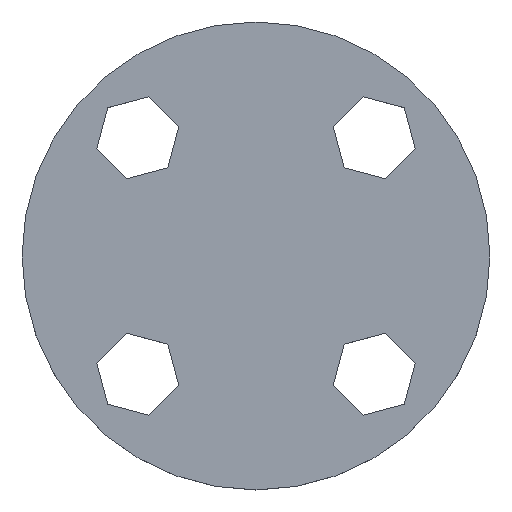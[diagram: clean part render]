
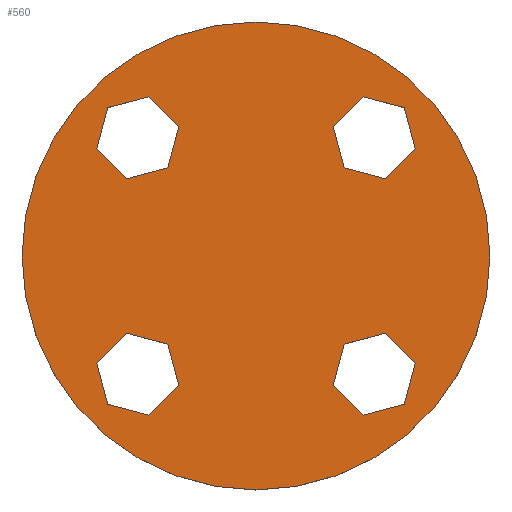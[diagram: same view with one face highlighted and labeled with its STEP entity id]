
A CAD part, top view. The second image highlights one B-rep face of the part: STEP entity #560.
In plain terms, the highlighted planar face has unit normal (0, 0, 1).
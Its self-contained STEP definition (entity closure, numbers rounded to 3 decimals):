
#20=FACE_BOUND('',#227,.T.);
#21=FACE_BOUND('',#228,.T.);
#22=FACE_BOUND('',#229,.T.);
#23=FACE_BOUND('',#230,.T.);
#49=LINE('',#800,#122);
#52=LINE('',#805,#125);
#54=LINE('',#809,#127);
#56=LINE('',#814,#129);
#59=LINE('',#819,#132);
#61=LINE('',#823,#134);
#63=LINE('',#828,#136);
#66=LINE('',#833,#139);
#68=LINE('',#837,#141);
#70=LINE('',#842,#143);
#73=LINE('',#847,#146);
#75=LINE('',#851,#148);
#77=LINE('',#855,#150);
#78=LINE('',#858,#151);
#80=LINE('',#861,#153);
#82=LINE('',#865,#155);
#83=LINE('',#868,#156);
#85=LINE('',#871,#158);
#87=LINE('',#875,#160);
#88=LINE('',#878,#161);
#90=LINE('',#881,#163);
#92=LINE('',#885,#165);
#93=LINE('',#888,#166);
#95=LINE('',#891,#168);
#122=VECTOR('',#644,10.);
#125=VECTOR('',#649,10.);
#127=VECTOR('',#653,10.);
#129=VECTOR('',#657,10.);
#132=VECTOR('',#662,10.);
#134=VECTOR('',#666,10.);
#136=VECTOR('',#670,10.);
#139=VECTOR('',#675,10.);
#141=VECTOR('',#679,10.);
#143=VECTOR('',#683,10.);
#146=VECTOR('',#688,10.);
#148=VECTOR('',#692,10.);
#150=VECTOR('',#696,10.);
#151=VECTOR('',#699,10.);
#153=VECTOR('',#703,10.);
#155=VECTOR('',#707,10.);
#156=VECTOR('',#710,10.);
#158=VECTOR('',#714,10.);
#160=VECTOR('',#718,10.);
#161=VECTOR('',#721,10.);
#163=VECTOR('',#725,10.);
#165=VECTOR('',#729,10.);
#166=VECTOR('',#732,10.);
#168=VECTOR('',#736,10.);
#195=FACE_OUTER_BOUND('',#226,.T.);
#226=EDGE_LOOP('',(#480));
#227=EDGE_LOOP('',(#481,#482,#483,#484,#485,#486));
#228=EDGE_LOOP('',(#487,#488,#489,#490,#491,#492));
#229=EDGE_LOOP('',(#493,#494,#495,#496,#497,#498));
#230=EDGE_LOOP('',(#499,#500,#501,#502,#503,#504));
#233=CIRCLE('',#609,17.5);
#259=VERTEX_POINT('',#797);
#260=VERTEX_POINT('',#799);
#261=VERTEX_POINT('',#803);
#262=VERTEX_POINT('',#807);
#263=VERTEX_POINT('',#811);
#264=VERTEX_POINT('',#813);
#265=VERTEX_POINT('',#817);
#266=VERTEX_POINT('',#821);
#267=VERTEX_POINT('',#825);
#268=VERTEX_POINT('',#827);
#269=VERTEX_POINT('',#831);
#270=VERTEX_POINT('',#835);
#271=VERTEX_POINT('',#839);
#272=VERTEX_POINT('',#841);
#273=VERTEX_POINT('',#845);
#274=VERTEX_POINT('',#849);
#275=VERTEX_POINT('',#853);
#276=VERTEX_POINT('',#857);
#277=VERTEX_POINT('',#863);
#278=VERTEX_POINT('',#867);
#279=VERTEX_POINT('',#873);
#280=VERTEX_POINT('',#877);
#281=VERTEX_POINT('',#883);
#282=VERTEX_POINT('',#887);
#283=VERTEX_POINT('',#893);
#310=EDGE_CURVE('',#260,#259,#49,.T.);
#313=EDGE_CURVE('',#259,#261,#52,.T.);
#315=EDGE_CURVE('',#261,#262,#54,.T.);
#317=EDGE_CURVE('',#264,#263,#56,.T.);
#320=EDGE_CURVE('',#263,#265,#59,.T.);
#322=EDGE_CURVE('',#265,#266,#61,.T.);
#324=EDGE_CURVE('',#268,#267,#63,.T.);
#327=EDGE_CURVE('',#267,#269,#66,.T.);
#329=EDGE_CURVE('',#269,#270,#68,.T.);
#331=EDGE_CURVE('',#272,#271,#70,.T.);
#334=EDGE_CURVE('',#271,#273,#73,.T.);
#336=EDGE_CURVE('',#273,#274,#75,.T.);
#338=EDGE_CURVE('',#262,#275,#77,.T.);
#339=EDGE_CURVE('',#276,#260,#78,.T.);
#341=EDGE_CURVE('',#275,#276,#80,.T.);
#343=EDGE_CURVE('',#266,#277,#82,.T.);
#344=EDGE_CURVE('',#278,#264,#83,.T.);
#346=EDGE_CURVE('',#277,#278,#85,.T.);
#348=EDGE_CURVE('',#270,#279,#87,.T.);
#349=EDGE_CURVE('',#280,#268,#88,.T.);
#351=EDGE_CURVE('',#279,#280,#90,.T.);
#353=EDGE_CURVE('',#274,#281,#92,.T.);
#354=EDGE_CURVE('',#282,#272,#93,.T.);
#356=EDGE_CURVE('',#281,#282,#95,.T.);
#357=EDGE_CURVE('',#283,#283,#233,.T.);
#480=ORIENTED_EDGE('',*,*,#357,.T.);
#481=ORIENTED_EDGE('',*,*,#356,.T.);
#482=ORIENTED_EDGE('',*,*,#354,.T.);
#483=ORIENTED_EDGE('',*,*,#331,.T.);
#484=ORIENTED_EDGE('',*,*,#334,.T.);
#485=ORIENTED_EDGE('',*,*,#336,.T.);
#486=ORIENTED_EDGE('',*,*,#353,.T.);
#487=ORIENTED_EDGE('',*,*,#351,.T.);
#488=ORIENTED_EDGE('',*,*,#349,.T.);
#489=ORIENTED_EDGE('',*,*,#324,.T.);
#490=ORIENTED_EDGE('',*,*,#327,.T.);
#491=ORIENTED_EDGE('',*,*,#329,.T.);
#492=ORIENTED_EDGE('',*,*,#348,.T.);
#493=ORIENTED_EDGE('',*,*,#346,.T.);
#494=ORIENTED_EDGE('',*,*,#344,.T.);
#495=ORIENTED_EDGE('',*,*,#317,.T.);
#496=ORIENTED_EDGE('',*,*,#320,.T.);
#497=ORIENTED_EDGE('',*,*,#322,.T.);
#498=ORIENTED_EDGE('',*,*,#343,.T.);
#499=ORIENTED_EDGE('',*,*,#341,.T.);
#500=ORIENTED_EDGE('',*,*,#339,.T.);
#501=ORIENTED_EDGE('',*,*,#310,.T.);
#502=ORIENTED_EDGE('',*,*,#313,.T.);
#503=ORIENTED_EDGE('',*,*,#315,.T.);
#504=ORIENTED_EDGE('',*,*,#338,.T.);
#534=PLANE('',#608);
#560=ADVANCED_FACE('',(#195,#20,#21,#22,#23),#534,.T.);
#608=AXIS2_PLACEMENT_3D('',#892,#737,#738);
#609=AXIS2_PLACEMENT_3D('',#894,#739,#740);
#644=DIRECTION('',(0.259,0.966,0.));
#649=DIRECTION('',(0.966,0.259,0.));
#653=DIRECTION('',(0.707,-0.707,0.));
#657=DIRECTION('',(-0.707,-0.707,0.));
#662=DIRECTION('',(-0.966,0.259,0.));
#666=DIRECTION('',(-0.259,0.966,0.));
#670=DIRECTION('',(0.707,-0.707,0.));
#675=DIRECTION('',(-0.259,-0.966,0.));
#679=DIRECTION('',(-0.966,-0.259,0.));
#683=DIRECTION('',(0.707,0.707,0.));
#688=DIRECTION('',(0.966,-0.259,0.));
#692=DIRECTION('',(0.259,-0.966,0.));
#696=DIRECTION('',(-0.259,-0.966,0.));
#699=DIRECTION('',(-0.707,0.707,0.));
#703=DIRECTION('',(-0.966,-0.259,0.));
#707=DIRECTION('',(0.707,0.707,0.));
#710=DIRECTION('',(0.259,-0.966,0.));
#714=DIRECTION('',(0.966,-0.259,0.));
#718=DIRECTION('',(-0.707,0.707,0.));
#721=DIRECTION('',(0.966,0.259,0.));
#725=DIRECTION('',(0.259,0.966,0.));
#729=DIRECTION('',(-0.707,-0.707,0.));
#732=DIRECTION('',(-0.259,0.966,0.));
#736=DIRECTION('',(-0.966,0.259,0.));
#737=DIRECTION('center_axis',(0.,0.,1.));
#738=DIRECTION('ref_axis',(1.,0.,0.));
#739=DIRECTION('center_axis',(0.,0.,1.));
#740=DIRECTION('ref_axis',(1.,0.,0.));
#797=CARTESIAN_POINT('',(-11.084,11.084,5.));
#799=CARTESIAN_POINT('',(-11.906,8.017,5.));
#800=CARTESIAN_POINT('',(-11.906,8.017,5.));
#803=CARTESIAN_POINT('',(-8.017,11.906,5.));
#805=CARTESIAN_POINT('',(-11.084,11.084,5.));
#807=CARTESIAN_POINT('',(-5.772,9.661,5.));
#809=CARTESIAN_POINT('',(-8.017,11.906,5.));
#811=CARTESIAN_POINT('',(-8.017,-11.906,5.));
#813=CARTESIAN_POINT('',(-5.772,-9.661,5.));
#814=CARTESIAN_POINT('',(-5.772,-9.661,5.));
#817=CARTESIAN_POINT('',(-11.084,-11.084,5.));
#819=CARTESIAN_POINT('',(-8.017,-11.906,5.));
#821=CARTESIAN_POINT('',(-11.906,-8.017,5.));
#823=CARTESIAN_POINT('',(-11.084,-11.084,5.));
#825=CARTESIAN_POINT('',(11.906,-8.017,5.));
#827=CARTESIAN_POINT('',(9.661,-5.772,5.));
#828=CARTESIAN_POINT('',(9.661,-5.772,5.));
#831=CARTESIAN_POINT('',(11.084,-11.084,5.));
#833=CARTESIAN_POINT('',(11.906,-8.017,5.));
#835=CARTESIAN_POINT('',(8.017,-11.906,5.));
#837=CARTESIAN_POINT('',(11.084,-11.084,5.));
#839=CARTESIAN_POINT('',(8.017,11.906,5.));
#841=CARTESIAN_POINT('',(5.772,9.661,5.));
#842=CARTESIAN_POINT('',(5.772,9.661,5.));
#845=CARTESIAN_POINT('',(11.084,11.084,5.));
#847=CARTESIAN_POINT('',(8.017,11.906,5.));
#849=CARTESIAN_POINT('',(11.906,8.017,5.));
#851=CARTESIAN_POINT('',(11.084,11.084,5.));
#853=CARTESIAN_POINT('',(-6.593,6.593,5.));
#855=CARTESIAN_POINT('',(-5.772,9.661,5.));
#857=CARTESIAN_POINT('',(-9.661,5.772,5.));
#858=CARTESIAN_POINT('',(-9.661,5.772,5.));
#861=CARTESIAN_POINT('',(-6.593,6.593,5.));
#863=CARTESIAN_POINT('',(-9.661,-5.772,5.));
#865=CARTESIAN_POINT('',(-11.906,-8.017,5.));
#867=CARTESIAN_POINT('',(-6.593,-6.593,5.));
#868=CARTESIAN_POINT('',(-6.593,-6.593,5.));
#871=CARTESIAN_POINT('',(-9.661,-5.772,5.));
#873=CARTESIAN_POINT('',(5.772,-9.661,5.));
#875=CARTESIAN_POINT('',(8.017,-11.906,5.));
#877=CARTESIAN_POINT('',(6.593,-6.593,5.));
#878=CARTESIAN_POINT('',(6.593,-6.593,5.));
#881=CARTESIAN_POINT('',(5.772,-9.661,5.));
#883=CARTESIAN_POINT('',(9.661,5.772,5.));
#885=CARTESIAN_POINT('',(11.906,8.017,5.));
#887=CARTESIAN_POINT('',(6.593,6.593,5.));
#888=CARTESIAN_POINT('',(6.593,6.593,5.));
#891=CARTESIAN_POINT('',(9.661,5.772,5.));
#892=CARTESIAN_POINT('Origin',(0.,0.,5.));
#893=CARTESIAN_POINT('',(-17.5,0.,5.));
#894=CARTESIAN_POINT('Origin',(0.,0.,5.));
